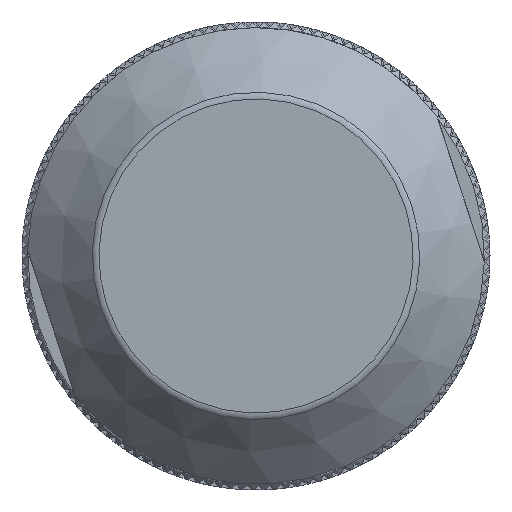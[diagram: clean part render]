
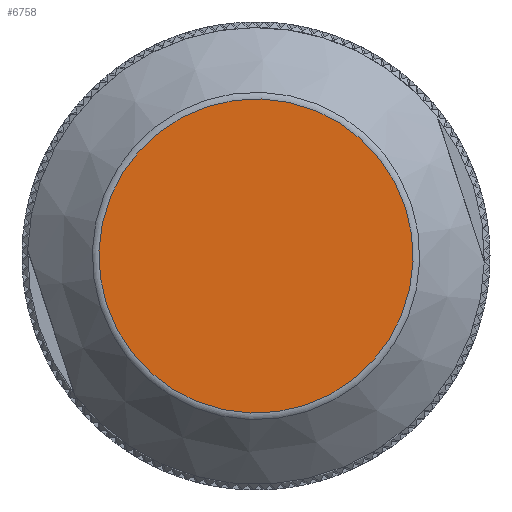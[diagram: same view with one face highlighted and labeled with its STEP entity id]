
A CAD part, left-side view. The second image highlights one B-rep face of the part: STEP entity #6758.
In plain terms, the highlighted planar face has unit normal (-1, 0, 0).
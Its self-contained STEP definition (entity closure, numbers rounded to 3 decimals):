
#654=PLANE('',#22893);
#1491=FACE_OUTER_BOUND('',#8075,.T.);
#6758=ADVANCED_FACE('',(#1491),#654,.F.);
#8075=EDGE_LOOP('',(#10901));
#10901=ORIENTED_EDGE('',*,*,#18134,.T.);
#15862=VERTEX_POINT('',#29897);
#18134=EDGE_CURVE('',#15862,#15862,#21541,.T.);
#21541=CIRCLE('',#22355,8.393);
#22355=AXIS2_PLACEMENT_3D('',#29896,#24357,#24358);
#22893=AXIS2_PLACEMENT_3D('',#33738,#25832,#25833);
#24357=DIRECTION('',(-1.,0.,0.));
#24358=DIRECTION('',(0.,0.309,0.951));
#25832=DIRECTION('',(1.,0.,0.));
#25833=DIRECTION('',(0.,0.309,0.951));
#29896=CARTESIAN_POINT('',(-112.1,0.,0.));
#29897=CARTESIAN_POINT('',(-112.1,2.594,7.982));
#33738=CARTESIAN_POINT('',(-112.1,-6.277,2.04));
